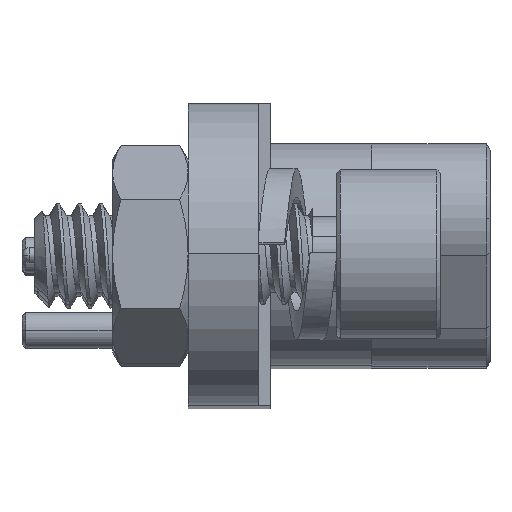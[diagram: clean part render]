
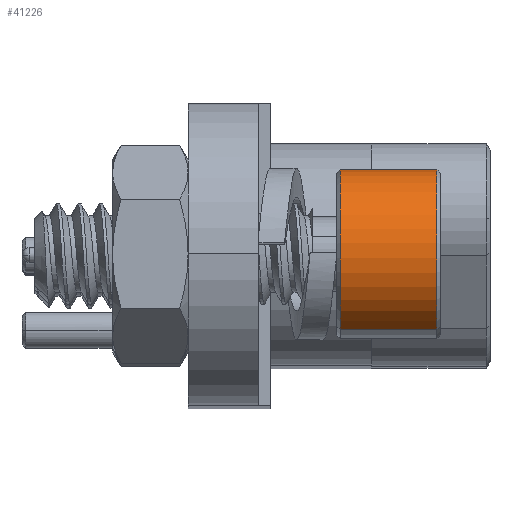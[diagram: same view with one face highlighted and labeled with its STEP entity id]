
A CAD part, top view. The second image highlights one B-rep face of the part: STEP entity #41226.
In plain terms, the highlighted cylindrical face has radius 1.778 mm (diameter 3.556 mm), a partial arc.
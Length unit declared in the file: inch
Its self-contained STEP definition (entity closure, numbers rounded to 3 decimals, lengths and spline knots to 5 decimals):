
#1733 = CIRCLE ( 'NONE', #35975, 0.07 ) ;
#6421 = DIRECTION ( 'NONE',  ( 0., 0.889, -0.458 ) ) ;
#6769 = EDGE_CURVE ( 'NONE', #44281, #54840, #31547, .T. ) ;
#9037 = CIRCLE ( 'NONE', #59944, 0.07 ) ;
#10696 = DIRECTION ( 'NONE',  ( 1., 0., 0. ) ) ;
#15522 = LINE ( 'NONE', #33897, #24722 ) ;
#15638 = DIRECTION ( 'NONE',  ( 0., 0.889, -0.458 ) ) ;
#17972 = EDGE_CURVE ( 'NONE', #54840, #39102, #9037, .T. ) ;
#18606 = EDGE_LOOP ( 'NONE', ( #46513, #25105, #34112, #39900 ) ) ;
#20245 = CYLINDRICAL_SURFACE ( 'NONE', #58230, 0.07 ) ;
#22156 = CARTESIAN_POINT ( 'NONE',  ( 0.126, 0.18722, -0.12408 ) ) ;
#22278 = FACE_OUTER_BOUND ( 'NONE', #18606, .T. ) ;
#24722 = VECTOR ( 'NONE', #56916, 39.37008 ) ;
#25105 = ORIENTED_EDGE ( 'NONE', *, *, #6769, .T. ) ;
#27744 = EDGE_CURVE ( 'NONE', #52580, #44281, #1733, .T. ) ;
#28284 = CARTESIAN_POINT ( 'NONE',  ( 0.126, 0.06278, -0.05992 ) ) ;
#29735 = CARTESIAN_POINT ( 'NONE',  ( 0.209, 0.125, -0.092 ) ) ;
#30004 = CARTESIAN_POINT ( 'NONE',  ( 0.206, 0.125, -0.092 ) ) ;
#30338 = DIRECTION ( 'NONE',  ( 1., 0., 0. ) ) ;
#31547 = LINE ( 'NONE', #40431, #53760 ) ;
#33691 = DIRECTION ( 'NONE',  ( 0., -0.889, 0.458 ) ) ;
#33897 = CARTESIAN_POINT ( 'NONE',  ( 0.209, 0.18722, -0.12408 ) ) ;
#34112 = ORIENTED_EDGE ( 'NONE', *, *, #17972, .T. ) ;
#35926 = EDGE_CURVE ( 'NONE', #52580, #39102, #15522, .T. ) ;
#35975 = AXIS2_PLACEMENT_3D ( 'NONE', #43797, #10696, #6421 ) ;
#39102 = VERTEX_POINT ( 'NONE', #42766 ) ;
#39900 = ORIENTED_EDGE ( 'NONE', *, *, #35926, .F. ) ;
#40431 = CARTESIAN_POINT ( 'NONE',  ( 0.209, 0.06278, -0.05992 ) ) ;
#41226 = ADVANCED_FACE ( 'NONE', ( #22278 ), #20245, .T. ) ;
#42766 = CARTESIAN_POINT ( 'NONE',  ( 0.206, 0.18722, -0.12408 ) ) ;
#43797 = CARTESIAN_POINT ( 'NONE',  ( 0.126, 0.125, -0.092 ) ) ;
#44281 = VERTEX_POINT ( 'NONE', #28284 ) ;
#46513 = ORIENTED_EDGE ( 'NONE', *, *, #27744, .T. ) ;
#48728 = DIRECTION ( 'NONE',  ( -1., 0., 0. ) ) ;
#50395 = CARTESIAN_POINT ( 'NONE',  ( 0.206, 0.06278, -0.05992 ) ) ;
#52580 = VERTEX_POINT ( 'NONE', #22156 ) ;
#53760 = VECTOR ( 'NONE', #58866, 39.37008 ) ;
#54840 = VERTEX_POINT ( 'NONE', #50395 ) ;
#56916 = DIRECTION ( 'NONE',  ( 1., 0., 0. ) ) ;
#58230 = AXIS2_PLACEMENT_3D ( 'NONE', #29735, #30338, #15638 ) ;
#58866 = DIRECTION ( 'NONE',  ( 1., 0., 0. ) ) ;
#59944 = AXIS2_PLACEMENT_3D ( 'NONE', #30004, #48728, #33691 ) ;
